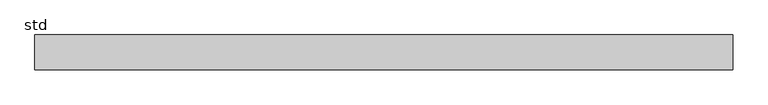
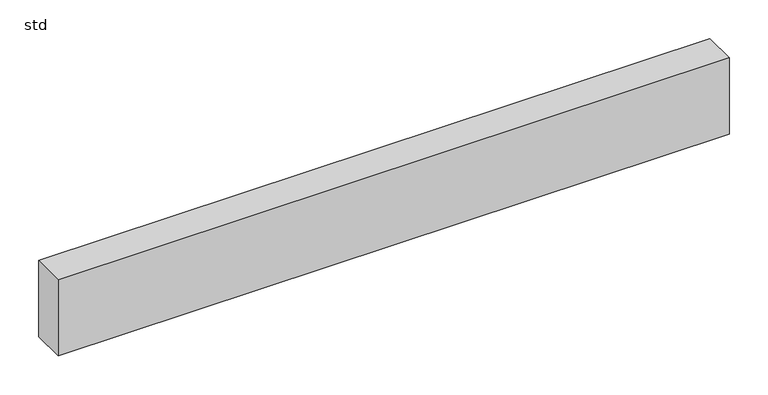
"""IFC4 building model written with IfcOpenShell, lengths in millimetres: proxy geometry, 300_41_ISR_lb_spouwlat : std."""

import ifcopenshell
import ifcopenshell.guid

model = None  # the IFC model being written
_history = None  # IfcOwnerHistory: only IFC2X3 demands one
_inside = {}  # id of a spatial element -> (the spatial element, [elements in it])
_under = {}  # id of a project, library or spatial element -> (it, [spatial elements below it])
_declared = {}  # id of a project -> (the project, [libraries it declares])
_typed = {}  # id of a type object -> (the type object, [elements of that type])
_made_of = {}  # id of a material, layer set ... -> (it, [elements and type objects made of it])


def new_model(schema):
    """Start an empty IFC model of exactly this schema.

    Asked for "IFC4X3", IfcOpenShell would pick the latest addendum, in which some entities
    have other attributes; the version numbers below select the first issue.
    IFC2X3 requires an IfcOwnerHistory on every rooted entity: one is made here for all.
    """
    global model, _history
    if schema == "IFC4X3":
        model = ifcopenshell.file(schema_version=(4, 3, 0, 0))
    else:
        model = ifcopenshell.file(schema=schema)
    _inside.clear()
    _under.clear()
    _declared.clear()
    _typed.clear()
    _made_of.clear()
    _history = None
    if model.schema == "IFC2X3":
        org = make("IfcOrganization", Name="unknown")
        user = make(
            "IfcPersonAndOrganization",
            ThePerson=make("IfcPerson", FamilyName="unknown"),
            TheOrganization=org,
        )
        app = make(
            "IfcApplication",
            ApplicationDeveloper=org,
            Version="unknown",
            ApplicationFullName="unknown",
            ApplicationIdentifier="unknown",
        )
        _history = make(
            "IfcOwnerHistory",
            OwningUser=user,
            OwningApplication=app,
            ChangeAction="ADDED",
            CreationDate=0,
        )
    return model


def make(cls, **values):
    """One entity of the class cls with the attributes given. An attribute that is None is left unset."""
    return model.create_entity(
        cls, **{name: value for name, value in values.items() if value is not None}
    )


def rooted(cls, **values):
    """An entity with a GlobalId (a new one), such as an element, a storey or a relation."""
    return make(cls, GlobalId=ifcopenshell.guid.new(), OwnerHistory=_history, **values)


def si_unit(unit_type, name, prefix=None):
    """IfcSIUnit, for example si_unit("LENGTHUNIT", "METRE", prefix="MILLI")."""
    return make("IfcSIUnit", UnitType=unit_type, Prefix=prefix, Name=name)


def assignment(units):
    """IfcUnitAssignment: the units of a project."""
    return None if units is None else make("IfcUnitAssignment", Units=units)


def point(xyz):
    """IfcCartesianPoint."""
    return None if xyz is None else make("IfcCartesianPoint", Coordinates=xyz)


def direction(xyz):
    """IfcDirection."""
    return None if xyz is None else make("IfcDirection", DirectionRatios=xyz)


def frame(location, z_axis=None, x_axis=None):
    """IfcAxis2Placement3D, a coordinate frame: its origin and axes. An axis left out is left unset."""
    return make(
        "IfcAxis2Placement3D",
        Location=point(location),
        Axis=direction(z_axis),
        RefDirection=direction(x_axis),
    )


def origin():
    """The frame at (0, 0, 0) with its axes left unset."""
    return frame((0.0, 0.0, 0.0))


def origin_with_axes():
    """The frame at (0, 0, 0) with the z axis (0, 0, 1) and the x axis (1, 0, 0) written out."""
    return frame((0.0, 0.0, 0.0), z_axis=(0.0, 0.0, 1.0), x_axis=(1.0, 0.0, 0.0))


def place(relative_to, where):
    """IfcLocalPlacement: puts the frame where relative to a parent placement (None: the world)."""
    return make(
        "IfcLocalPlacement", PlacementRelTo=relative_to, RelativePlacement=where
    )


def context(
    kind, dimensions, precision=None, world=None, true_north=None, identifier=None
):
    """IfcGeometricRepresentationContext, for example the 3D "Model" context."""
    return make(
        "IfcGeometricRepresentationContext",
        ContextIdentifier=identifier,
        ContextType=kind,
        CoordinateSpaceDimension=dimensions,
        Precision=precision,
        WorldCoordinateSystem=world,
        TrueNorth=true_north,
    )


def project(units=None, contexts=None):
    """IfcProject with its units and contexts."""
    return rooted(
        "IfcProject",
        Name="project",
        RepresentationContexts=contexts,
        UnitsInContext=assignment(units),
    )


def spatial(cls, under=None, at=None, **own):
    """A site, building, storey or space (cls), placed at a placement, below another one or the project."""
    s = rooted(cls, ObjectPlacement=at, **own)
    if under is not None:
        _under.setdefault(under.id(), (under, []))[1].append(s)
    return s


def polyline(points):
    """IfcPolyline through the points."""
    return make("IfcPolyline", Points=[point(p) for p in points])


def outline(outer, holes=None, kind="AREA"):
    """IfcArbitraryClosedProfileDef: a profile drawn as a closed curve; with holes, ...WithVoids."""
    if holes is None:
        return make("IfcArbitraryClosedProfileDef", ProfileType=kind, OuterCurve=outer)
    return make(
        "IfcArbitraryProfileDefWithVoids",
        ProfileType=kind,
        OuterCurve=outer,
        InnerCurves=holes,
    )


def extrude(swept, where, along, depth):
    """IfcExtrudedAreaSolid: the profile swept, set in the frame where, extruded along a direction by depth."""
    return make(
        "IfcExtrudedAreaSolid",
        SweptArea=swept,
        Position=where,
        ExtrudedDirection=direction(along),
        Depth=depth,
    )


def shape(context_of_items, identifier, shape_type, items):
    """IfcShapeRepresentation: the items that make up one representation, for example the "Body"."""
    return make(
        "IfcShapeRepresentation",
        ContextOfItems=context_of_items,
        RepresentationIdentifier=identifier,
        RepresentationType=shape_type,
        Items=items,
    )


def source(mapping_origin, context_of_items, identifier, shape_type, items):
    """IfcRepresentationMap: a shape defined once, which mapped items show again and again."""
    return make(
        "IfcRepresentationMap",
        MappingOrigin=mapping_origin,
        MappedRepresentation=shape(context_of_items, identifier, shape_type, items),
    )


def transform(
    local_origin,
    x_axis=None,
    y_axis=None,
    z_axis=None,
    scale=None,
    scale2=None,
    scale3=None,
    uniform=True,
):
    """IfcCartesianTransformationOperator3D, or its non-uniform kind. x_axis, y_axis, z_axis: its Axis1, 2, 3."""
    if uniform:
        return make(
            "IfcCartesianTransformationOperator3D",
            Axis1=direction(x_axis),
            Axis2=direction(y_axis),
            LocalOrigin=point(local_origin),
            Scale=scale,
            Axis3=direction(z_axis),
        )
    return make(
        "IfcCartesianTransformationOperator3DnonUniform",
        Axis1=direction(x_axis),
        Axis2=direction(y_axis),
        LocalOrigin=point(local_origin),
        Scale=scale,
        Axis3=direction(z_axis),
        Scale2=scale2,
        Scale3=scale3,
    )


def mapped(mapping_source, mapping_target):
    """IfcMappedItem: shows the shape of a source again, moved by a transform."""
    return make(
        "IfcMappedItem", MappingSource=mapping_source, MappingTarget=mapping_target
    )


def made_of(thing, what):
    """Note that an element or type object is made of a material, layer set ...; save() writes the relation."""
    if what is not None:
        _made_of.setdefault(what.id(), (what, []))[1].append(thing)
    return thing


def element(
    cls,
    number,
    at=None,
    inside=None,
    cuts=None,
    type_object=None,
    material=None,
    context=None,
    identifier="Body",
    shape_type=None,
    held_by="IfcProductDefinitionShape",
    body=None,
    shapes=None,
    **own,
):
    """One element of the class cls, such as IfcWall. Its Tag is "e" and its number.

    at: its placement. inside: the storey or other place that contains it. cuts: it is an
    opening in that element (IfcRelVoidsElement). A single representation is given by context,
    identifier, shape_type and body (its items); several are given by shapes. held_by: the class
    of the entity that holds the representations. save() writes the other relations.
    """
    e = rooted(cls, Tag="e%d" % number, ObjectPlacement=at, **own)
    if body is not None:
        shapes = [shape(context, identifier, shape_type, body)]
    if shapes is not None:
        e.Representation = make(held_by, Representations=shapes)
    if inside is not None:
        _inside.setdefault(inside.id(), (inside, []))[1].append(e)
    if cuts is not None:
        rooted(
            "IfcRelVoidsElement", RelatingBuildingElement=cuts, RelatedOpeningElement=e
        )
    if type_object is not None:
        _typed.setdefault(type_object.id(), (type_object, []))[1].append(e)
    return made_of(e, material)


def aggregate(whole, parts):
    """IfcRelAggregates: a whole, such as a stair, and the parts it consists of."""
    return rooted("IfcRelAggregates", RelatingObject=whole, RelatedObjects=parts)


def save(model, path):
    """Write the relations noted so far, then the file.

    IfcRelAggregates (storeys below a building ...), IfcRelContainedInSpatialStructure (elements
    in a storey), IfcRelDefinesByType, IfcRelAssociatesMaterial and IfcRelDeclares: one each for
    every whole, place, type object, material and project.
    """
    for whole, parts in _under.values():
        aggregate(whole, parts)
    for where, things in _inside.values():
        rooted(
            "IfcRelContainedInSpatialStructure",
            RelatedElements=things,
            RelatingStructure=where,
        )
    for kind, things in _typed.values():
        rooted("IfcRelDefinesByType", RelatedObjects=things, RelatingType=kind)
    for what, things in _made_of.values():
        rooted("IfcRelAssociatesMaterial", RelatedObjects=things, RelatingMaterial=what)
    for by, libraries in _declared.values():
        rooted("IfcRelDeclares", RelatingContext=by, RelatedDefinitions=libraries)
    model.write(path)


def std_e55cd7ee(model_context):
    return source(origin(), model_context, "Body", "SweptSolid", [
        extrude(outline(polyline([(-500.0, 0.0), (-500.0, 50.0), (500.0, 50.0), (500.0, 0.0), (-500.0, 0.0)])), origin_with_axes(), (0.0, 0.0, 1.0), 120.0),
    ])


if __name__ == "__main__":
    model = new_model("IFC4")
    model_context = context("Model", 3, world=origin())
    ifc_project = project(units=[si_unit("LENGTHUNIT", "METRE", prefix="MILLI")], contexts=[model_context])
    site = spatial("IfcSite", under=ifc_project)
    building = spatial("IfcBuilding", under=site)
    placement = place(None, origin())
    std_shape = std_e55cd7ee(model_context)
    element("IfcBuildingElementProxy", 1, Name="300_41_ISR_lb_spouwlat : std", ObjectType="300_41_ISR_lb_spouwlat : std", at=placement, inside=building, context=model_context, shape_type="MappedRepresentation", body=[
        mapped(std_shape, transform((0.0, 0.0, 0.0), x_axis=(1.0, 0.0, 0.0), y_axis=(0.0, 1.0, 0.0), z_axis=(0.0, 0.0, 1.0))),
    ])
    save(model, "model.ifc")
